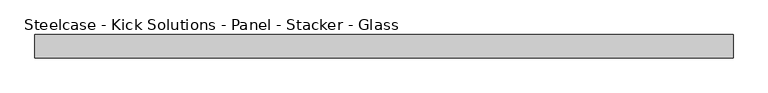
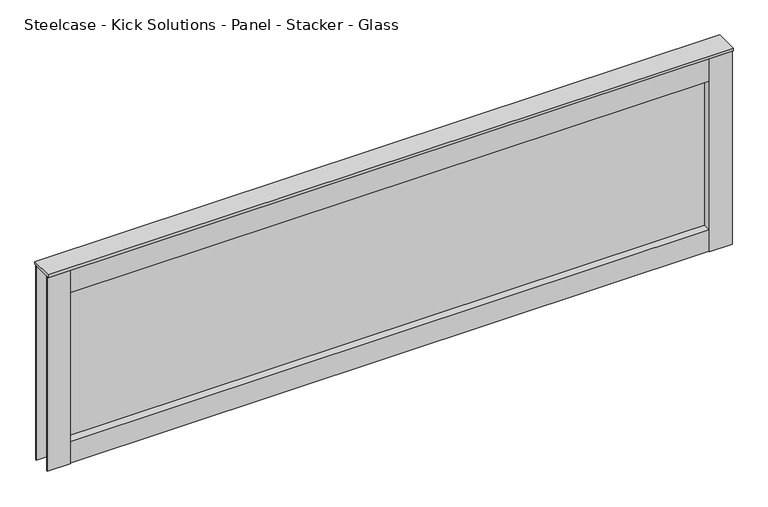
"""IFC4 building model written with IfcOpenShell, lengths in millimetres: furniture geometry, Steelcase - Kick Solutions - Panel - Stacker - Glass : 18H x 60W."""

from ifc_helpers import new_model, si_unit, frame, origin, place, context, project, spatial, polyline, outline, extrude, source, transform, mapped, element, save


def steelcase_kick_solutions_panel_stacker_glass_384166fd(model_context):
    return source(origin(), model_context, "Body", "SweptSolid", [
        extrude(outline(polyline([(1473.2006661, -5.08), (1473.2006661, -45.7200015), (50.8006646, -45.7200015), (50.8006646, -5.08), (1473.2006661, -5.08)])), frame((0.0, 0.0, 1066.8), z_axis=(0.0, 0.0, 1.0), x_axis=(1.0, 0.0, 0.0)), (0.0, 0.0, 1.0), 50.6830951),
        extrude(outline(polyline([(1473.2006661, -5.08), (1473.2006661, -45.7200015), (50.8006646, -45.7200015), (50.8006646, -5.08), (1473.2006661, -5.08)])), frame((0.0, 0.0, 1466.85), z_axis=(0.0, 0.0, 1.0), x_axis=(1.0, 0.0, 0.0)), (0.0, 0.0, 1.0), 57.15),
        extrude(outline(polyline([(50.8006646, -3.1743148), (50.8006646, -47.6243142), (0.0, -47.6243142), (0.0, -45.7200015), (47.7526646, -45.7200015), (47.7526646, -5.08), (0.0, -5.08), (0.0, -3.1743148), (50.8006646, -3.1743148)])), frame((0.0, 0.0, 1066.8), z_axis=(0.0, 0.0, 1.0), x_axis=(1.0, 0.0, 0.0)), (0.0, 0.0, 1.0), 457.2),
        extrude(outline(polyline([(1473.2006661, -3.1743148), (1524.0, -3.1743148), (1524.0, -5.08), (1476.2486661, -5.08), (1476.2486661, -45.7200015), (1524.0, -45.7200015), (1524.0, -47.6243142), (1473.2006661, -47.6243142), (1473.2006661, -3.1743148)])), frame((0.0, 0.0, 1066.8), z_axis=(0.0, 0.0, 1.0), x_axis=(1.0, 0.0, 0.0)), (0.0, 0.0, 1.0), 457.2),
        extrude(outline(polyline([(1473.2006661, -28.422537), (50.8006646, -28.422537), (50.8006646, -25.4), (1473.2006661, -25.4), (1473.2006661, -28.422537)])), frame((0.0, 0.0, 1117.4830951), z_axis=(0.0, 0.0, 1.0), x_axis=(1.0, 0.0, 0.0)), (0.0, 0.0, 1.0), 349.3669049),
        extrude(outline(polyline([(1524.0, 0.0), (1524.0, -50.8000015), (0.0, -50.8000015), (0.0, 0.0), (1524.0, 0.0)])), frame((0.0, 0.0, 1524.0), z_axis=(0.0, 0.0, 1.0), x_axis=(1.0, 0.0, 0.0)), (0.0, 0.0, 1.0), 6.35),
    ])


if __name__ == "__main__":
    model = new_model("IFC4")
    model_context = context("Model", 3, world=origin())
    ifc_project = project(units=[si_unit("LENGTHUNIT", "METRE", prefix="MILLI")], contexts=[model_context])
    site = spatial("IfcSite", under=ifc_project)
    building = spatial("IfcBuilding", under=site)
    placement = place(None, origin())
    steelcase_kick_solutions_panel_stacker_glass_shape = steelcase_kick_solutions_panel_stacker_glass_384166fd(model_context)
    element("IfcFurniture", 1, ObjectType="Steelcase - Kick Solutions - Panel - Stacker - Glass : 18H x 60W", at=placement, inside=building, context=model_context, shape_type="MappedRepresentation", body=[
        mapped(steelcase_kick_solutions_panel_stacker_glass_shape, transform((0.0, 0.0, 0.0), x_axis=(1.0, 0.0, 0.0), y_axis=(0.0, 1.0, 0.0), z_axis=(0.0, 0.0, 1.0))),
    ])
    save(model, "model.ifc")
